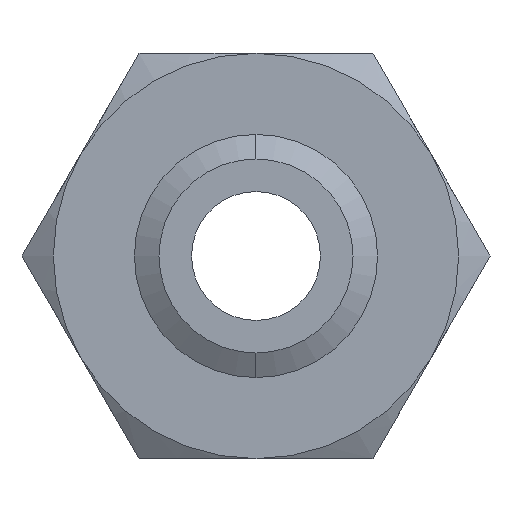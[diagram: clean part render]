
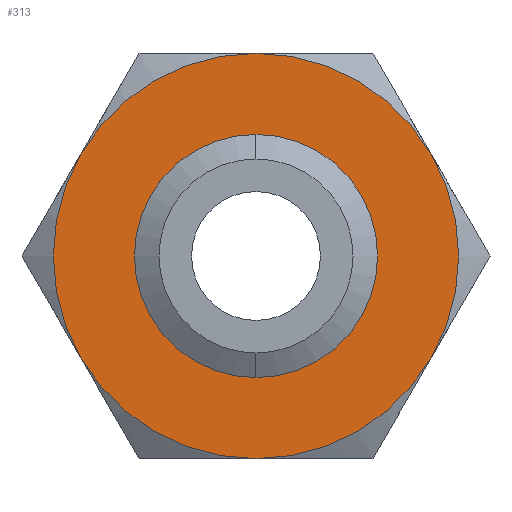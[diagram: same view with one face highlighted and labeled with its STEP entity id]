
A CAD part, front view. The second image highlights one B-rep face of the part: STEP entity #313.
In plain terms, the highlighted planar face has unit normal (0, -1, 0).
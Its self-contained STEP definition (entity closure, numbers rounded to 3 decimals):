
#289 = ORIENTED_EDGE ( 'NONE', *, *, #312, .F. ) ;
#305 = EDGE_LOOP ( 'NONE', ( #289, #1914, #314, #1911, #1941, #1943 ) ) ;
#307 = VERTEX_POINT ( 'NONE', #1091 ) ;
#308 = VERTEX_POINT ( 'NONE', #1090 ) ;
#312 = EDGE_CURVE ( 'NONE', #307, #308, #1084, .T. ) ;
#313 = ADVANCED_FACE ( 'NONE', ( #1074, #1073 ), #1072, .F. ) ;
#314 = ORIENTED_EDGE ( 'NONE', *, *, #1917, .F. ) ;
#419 = EDGE_CURVE ( 'NONE', #420, #421, #1301, .T. ) ;
#420 = VERTEX_POINT ( 'NONE', #1296 ) ;
#421 = VERTEX_POINT ( 'NONE', #1295 ) ;
#1067 = DIRECTION ( 'NONE',  ( 0., 0., 1. ) ) ;
#1068 = DIRECTION ( 'NONE',  ( 0., 1., 0. ) ) ;
#1069 = CARTESIAN_POINT ( 'NONE',  ( 14.434, 0., -25. ) ) ;
#1071 = AXIS2_PLACEMENT_3D ( 'NONE', #1069, #1068, #1067 ) ;
#1072 = PLANE ( 'NONE',  #1071 ) ;
#1073 = FACE_BOUND ( 'NONE', #1948, .T. ) ;
#1074 = FACE_OUTER_BOUND ( 'NONE', #305, .T. ) ;
#1075 = DIRECTION ( 'NONE',  ( 0., 0., 1. ) ) ;
#1076 = DIRECTION ( 'NONE',  ( 0., 1., 0. ) ) ;
#1077 = CARTESIAN_POINT ( 'NONE',  ( 0., 0., 0. ) ) ;
#1078 = AXIS2_PLACEMENT_3D ( 'NONE', #1077, #1076, #1075 ) ;
#1084 = CIRCLE ( 'NONE', #1078, 25. ) ;
#1090 = CARTESIAN_POINT ( 'NONE',  ( 21.651, 0., 12.5 ) ) ;
#1091 = CARTESIAN_POINT ( 'NONE',  ( 0., 0., 25. ) ) ;
#1295 = CARTESIAN_POINT ( 'NONE',  ( 0., 0., 11.969 ) ) ;
#1296 = CARTESIAN_POINT ( 'NONE',  ( 0., 0., -11.969 ) ) ;
#1297 = DIRECTION ( 'NONE',  ( 0., 0., -1. ) ) ;
#1298 = DIRECTION ( 'NONE',  ( 0., -1., 0. ) ) ;
#1299 = CARTESIAN_POINT ( 'NONE',  ( 0., 0., 0. ) ) ;
#1300 = AXIS2_PLACEMENT_3D ( 'NONE', #1299, #1298, #1297 ) ;
#1301 = CIRCLE ( 'NONE', #1300, 11.969 ) ;
#1388 = DIRECTION ( 'NONE',  ( 0., 0., 1. ) ) ;
#1389 = DIRECTION ( 'NONE',  ( 0., 1., 0. ) ) ;
#1390 = CARTESIAN_POINT ( 'NONE',  ( 0., 0., 0. ) ) ;
#1391 = AXIS2_PLACEMENT_3D ( 'NONE', #1390, #1389, #1388 ) ;
#1392 = CIRCLE ( 'NONE', #1391, 25. ) ;
#1394 = CARTESIAN_POINT ( 'NONE',  ( -21.651, 0., 12.5 ) ) ;
#1395 = DIRECTION ( 'NONE',  ( 0., 0., 1. ) ) ;
#1396 = DIRECTION ( 'NONE',  ( 0., 1., 0. ) ) ;
#1397 = CARTESIAN_POINT ( 'NONE',  ( 0., 0., 0. ) ) ;
#1398 = AXIS2_PLACEMENT_3D ( 'NONE', #1397, #1396, #1395 ) ;
#1399 = CIRCLE ( 'NONE', #1398, 25. ) ;
#1400 = CARTESIAN_POINT ( 'NONE',  ( -21.651, 0., -12.5 ) ) ;
#1401 = DIRECTION ( 'NONE',  ( 0., 0., 1. ) ) ;
#1402 = DIRECTION ( 'NONE',  ( 0., 1., 0. ) ) ;
#1403 = CARTESIAN_POINT ( 'NONE',  ( 0., 0., 0. ) ) ;
#1404 = AXIS2_PLACEMENT_3D ( 'NONE', #1403, #1402, #1401 ) ;
#1405 = CIRCLE ( 'NONE', #1404, 25. ) ;
#1412 = CIRCLE ( 'NONE', #1473, 25. ) ;
#1420 = DIRECTION ( 'NONE',  ( 0., 0., 1. ) ) ;
#1421 = DIRECTION ( 'NONE',  ( 0., 1., 0. ) ) ;
#1422 = CARTESIAN_POINT ( 'NONE',  ( 0., 0., 0. ) ) ;
#1423 = AXIS2_PLACEMENT_3D ( 'NONE', #1422, #1421, #1420 ) ;
#1424 = CIRCLE ( 'NONE', #1423, 25. ) ;
#1425 = CARTESIAN_POINT ( 'NONE',  ( 0., 0., -25. ) ) ;
#1426 = CARTESIAN_POINT ( 'NONE',  ( 21.651, 0., -12.5 ) ) ;
#1466 = DIRECTION ( 'NONE',  ( 0., 0., -1. ) ) ;
#1467 = DIRECTION ( 'NONE',  ( 0., -1., 0. ) ) ;
#1468 = AXIS2_PLACEMENT_3D ( 'NONE', #1474, #1467, #1466 ) ;
#1469 = CIRCLE ( 'NONE', #1468, 11.969 ) ;
#1470 = DIRECTION ( 'NONE',  ( 0., 0., 1. ) ) ;
#1471 = DIRECTION ( 'NONE',  ( 0., 1., 0. ) ) ;
#1472 = CARTESIAN_POINT ( 'NONE',  ( 0., 0., 0. ) ) ;
#1473 = AXIS2_PLACEMENT_3D ( 'NONE', #1472, #1471, #1470 ) ;
#1474 = CARTESIAN_POINT ( 'NONE',  ( 0., 0., 0. ) ) ;
#1910 = EDGE_CURVE ( 'NONE', #1915, #307, #1405, .T. ) ;
#1911 = ORIENTED_EDGE ( 'NONE', *, *, #1912, .F. ) ;
#1912 = EDGE_CURVE ( 'NONE', #1944, #1913, #1399, .T. ) ;
#1913 = VERTEX_POINT ( 'NONE', #1400 ) ;
#1914 = ORIENTED_EDGE ( 'NONE', *, *, #1910, .F. ) ;
#1915 = VERTEX_POINT ( 'NONE', #1394 ) ;
#1917 = EDGE_CURVE ( 'NONE', #1913, #1915, #1392, .T. ) ;
#1920 = ORIENTED_EDGE ( 'NONE', *, *, #1952, .F. ) ;
#1921 = ORIENTED_EDGE ( 'NONE', *, *, #419, .F. ) ;
#1941 = ORIENTED_EDGE ( 'NONE', *, *, #1945, .F. ) ;
#1942 = VERTEX_POINT ( 'NONE', #1426 ) ;
#1943 = ORIENTED_EDGE ( 'NONE', *, *, #1950, .F. ) ;
#1944 = VERTEX_POINT ( 'NONE', #1425 ) ;
#1945 = EDGE_CURVE ( 'NONE', #1942, #1944, #1424, .T. ) ;
#1948 = EDGE_LOOP ( 'NONE', ( #1921, #1920 ) ) ;
#1950 = EDGE_CURVE ( 'NONE', #308, #1942, #1412, .T. ) ;
#1952 = EDGE_CURVE ( 'NONE', #421, #420, #1469, .T. ) ;
